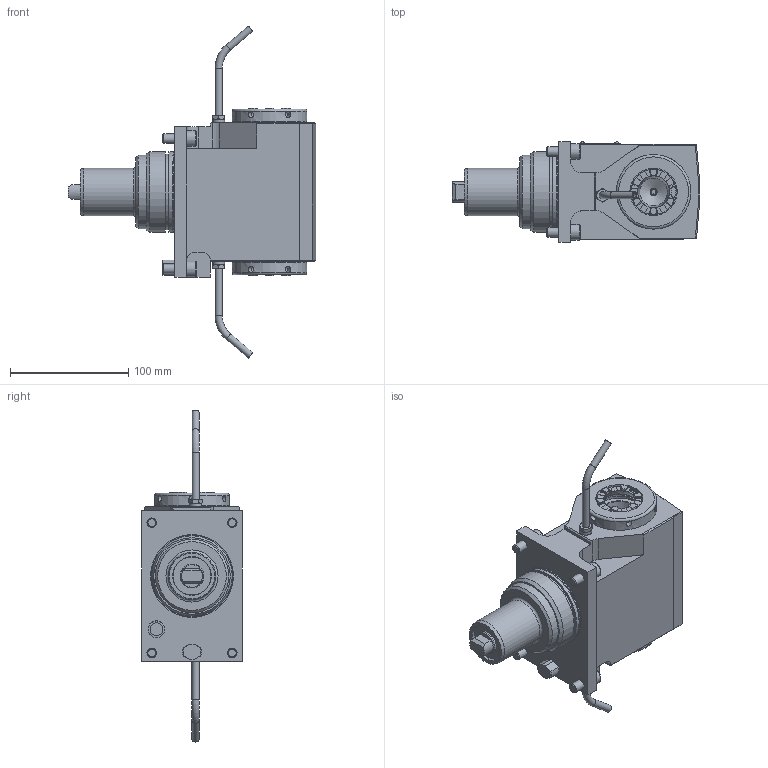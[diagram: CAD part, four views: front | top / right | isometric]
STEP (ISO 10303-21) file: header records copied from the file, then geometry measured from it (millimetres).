
FILE_DESCRIPTION(/* description */ (''),/* implementation_level */ '2;1');
FILE_NAME(/* name */ '189523',/* time_stamp */ '2020-01-17T11:16:39+01:00',/* author */ (''),/* organization */ (''),/* preprocessor_version */ 'ST-DEVELOPER v16.5',/* originating_system */ 'HiCAD 2017 2201.0 Build 268',/* authorisation */ '');
FILE_SCHEMA (('AUTOMOTIVE_DESIGN { 1 0 10303 214 1 1 1 1 }'));
Products named in the file (14): Root; Teil; GEWINDE; DIN 13-M40x1,5; DIN 76-M6
Assembly tree (13 placements, depth 3):
  Root
    Teil
      GEWINDE
      GEWINDE
      DIN 13-M40x1,5
      DIN 13-M40x1,5
      GEWINDE
      GEWINDE
      GEWINDE
      GEWINDE
      GEWINDE
      GEWINDE
      DIN 76-M6
      DIN 76-M6
Bounding box: 209 x 85 x 280.33 mm (x, y, z)
Volume: 1264007.9 mm3; surface area: 131263 mm2
Topology: 17 solids, 25 shells, 735 faces, 1859 edges, 1218 vertices
Faces by surface type: plane 379, cylinder 264, cone 45, torus 39, sphere 8
Full cylindrical faces by diameter (mm): 2 x8, 2.2 x8, 4 x4, 4.773 x4, 5 x4, 5.1 x12, 6 x10, 6.466 x8, 8 x4, 8.773 x4, 10 x2, 10.82 x1, 13 x4, 14.18 x1, 14.27 x1, 20 x1, 23.5 x2, 27 x2, 32 x1, 38.5 x4, 40 x5, 40.5 x2, 42 x1, 55 x2, 60 x2, 62 x1, 63 x2, 63.8 x1, 67.6 x1, 68 x2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
Entity records: 51747 total; most frequent: CARTESIAN_POINT 16198, PRESENTATION_STYLE_ASSIGNMENT 3636, OVER_RIDING_STYLED_ITEM 3623, DIRECTION 3445, COLOUR_RGB 3259, DRAUGHTING_PRE_DEFINED_CURVE_FONT 3252, CURVE_STYLE 3252, ORIENTED_EDGE 3252
